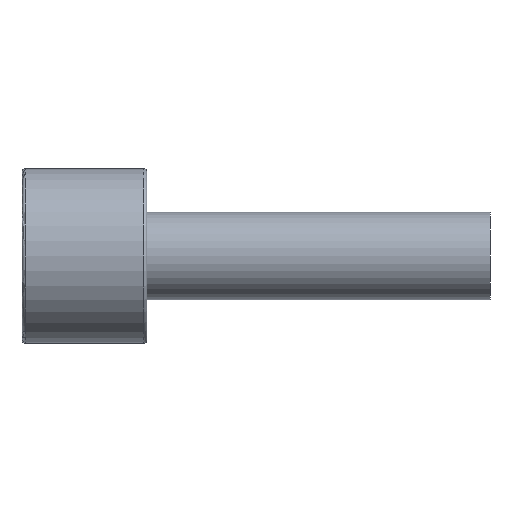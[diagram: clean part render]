
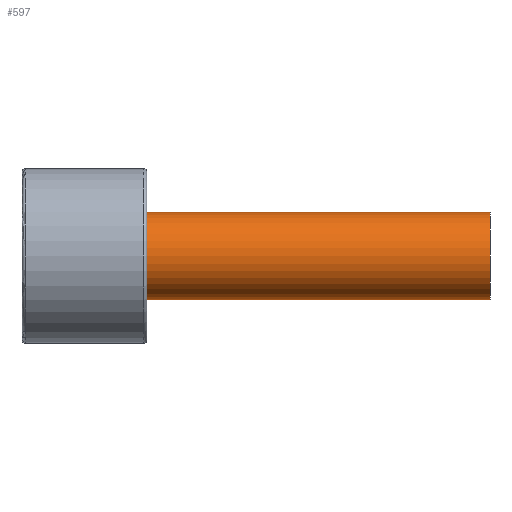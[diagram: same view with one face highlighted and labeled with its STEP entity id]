
A CAD part, front view. The second image highlights one B-rep face of the part: STEP entity #597.
In plain terms, the highlighted cylindrical face has radius 7 mm (diameter 14 mm), a partial arc.
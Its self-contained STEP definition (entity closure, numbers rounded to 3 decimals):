
#431=CARTESIAN_POINT('Vertex',(75.,0.,7.)) ;
#434=CARTESIAN_POINT('Axis2P3D Location',(75.,0.,0.)) ;
#438=CARTESIAN_POINT('Vertex',(75.,-7.,0.)) ;
#441=CARTESIAN_POINT('Axis2P3D Location',(75.,0.,0.)) ;
#445=CARTESIAN_POINT('Vertex',(75.,0.,-7.)) ;
#537=CARTESIAN_POINT('Line Origine',(75.,0.,7.)) ;
#541=CARTESIAN_POINT('Vertex',(20.,0.,7.)) ;
#544=CARTESIAN_POINT('Line Origine',(75.,0.,-7.)) ;
#548=CARTESIAN_POINT('Vertex',(20.,0.,-7.)) ;
#572=CARTESIAN_POINT('Axis2P3D Location',(75.,0.,0.)) ;
#577=CARTESIAN_POINT('Axis2P3D Location',(20.,0.,0.)) ;
#581=CARTESIAN_POINT('Vertex',(20.,-7.,0.)) ;
#584=CARTESIAN_POINT('Axis2P3D Location',(20.,0.,0.)) ;
#435=DIRECTION('Axis2P3D Direction',(1.,0.,-0.)) ;
#442=DIRECTION('Axis2P3D Direction',(1.,0.,-0.)) ;
#538=DIRECTION('Vector Direction',(-1.,0.,0.)) ;
#545=DIRECTION('Vector Direction',(-1.,0.,0.)) ;
#573=DIRECTION('Axis2P3D Direction',(-1.,-0.,-0.)) ;
#574=DIRECTION('Axis2P3D XDirection',(0.,0.,-1.)) ;
#578=DIRECTION('Axis2P3D Direction',(-1.,-0.,-0.)) ;
#585=DIRECTION('Axis2P3D Direction',(-1.,-0.,-0.)) ;
#436=AXIS2_PLACEMENT_3D('Circle Axis2P3D',#434,#435,$) ;
#443=AXIS2_PLACEMENT_3D('Circle Axis2P3D',#441,#442,$) ;
#575=AXIS2_PLACEMENT_3D('Cylinder Axis2P3D',#572,#573,#574) ;
#579=AXIS2_PLACEMENT_3D('Circle Axis2P3D',#577,#578,$) ;
#586=AXIS2_PLACEMENT_3D('Circle Axis2P3D',#584,#585,$) ;
#590=ORIENTED_EDGE('',*,*,#550,.T.) ;
#591=ORIENTED_EDGE('',*,*,#447,.F.) ;
#592=ORIENTED_EDGE('',*,*,#440,.F.) ;
#593=ORIENTED_EDGE('',*,*,#543,.T.) ;
#594=ORIENTED_EDGE('',*,*,#583,.T.) ;
#595=ORIENTED_EDGE('',*,*,#588,.T.) ;
#539=VECTOR('Line Direction',#538,1.) ;
#546=VECTOR('Line Direction',#545,1.) ;
#597=ADVANCED_FACE('367F-14X75',(#596),#576,.T.) ;
#437=CIRCLE('generated circle',#436,7.) ;
#444=CIRCLE('generated circle',#443,7.) ;
#580=CIRCLE('generated circle',#579,7.) ;
#587=CIRCLE('generated circle',#586,7.) ;
#576=CYLINDRICAL_SURFACE('generated cylinder',#575,7.) ;
#440=EDGE_CURVE('',#432,#439,#437,.T.) ;
#447=EDGE_CURVE('',#439,#446,#444,.T.) ;
#543=EDGE_CURVE('',#432,#542,#540,.T.) ;
#550=EDGE_CURVE('',#549,#446,#547,.F.) ;
#583=EDGE_CURVE('',#542,#582,#580,.F.) ;
#588=EDGE_CURVE('',#582,#549,#587,.F.) ;
#589=EDGE_LOOP('',(#590,#591,#592,#593,#594,#595)) ;
#596=FACE_OUTER_BOUND('',#589,.T.) ;
#540=LINE('Line',#537,#539) ;
#547=LINE('Line',#544,#546) ;
#432=VERTEX_POINT('',#431) ;
#439=VERTEX_POINT('',#438) ;
#446=VERTEX_POINT('',#445) ;
#542=VERTEX_POINT('',#541) ;
#549=VERTEX_POINT('',#548) ;
#582=VERTEX_POINT('',#581) ;
